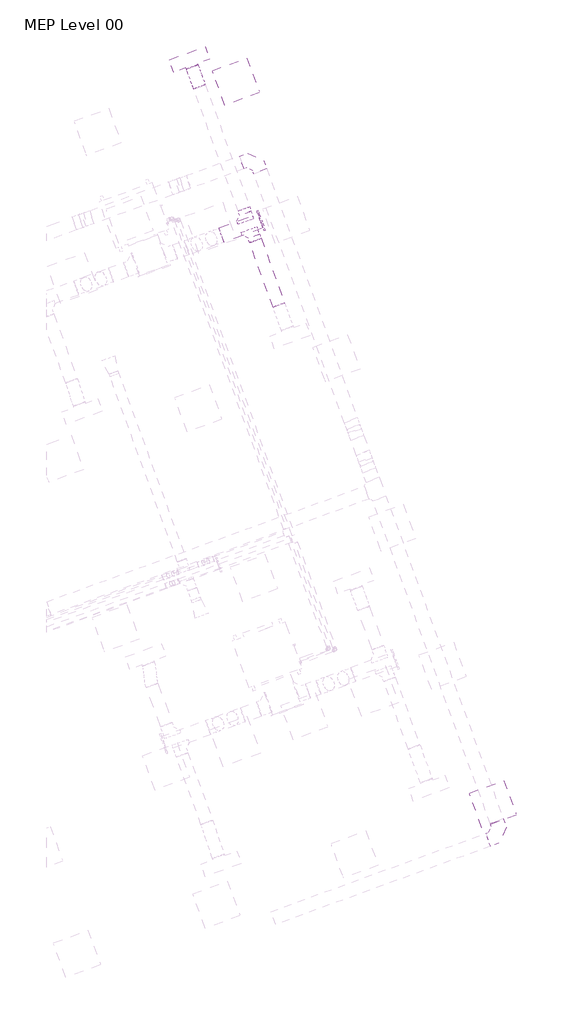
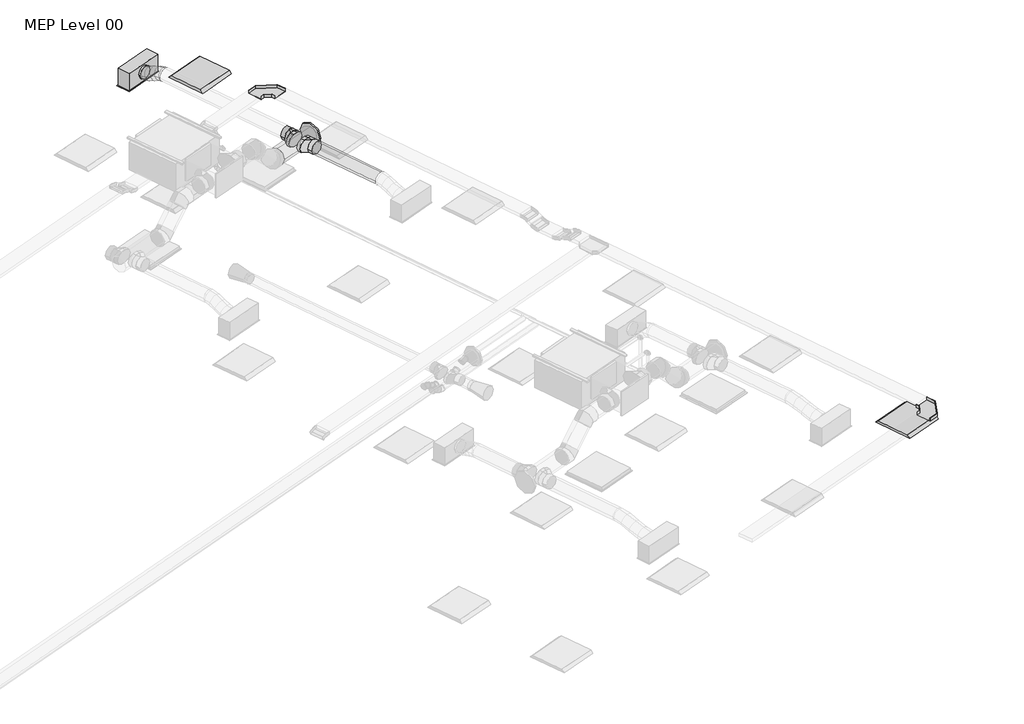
# One storey, part 33 of 33: 3 duct fittings, 3 duct segments, 2 cable carrier fittings, 2 light fixtures, 1 air terminal.
"""IFC4 building model written with IfcOpenShell, lengths in millimetres."""

from ifc_helpers import new_model, si_unit, point, frame, frame_2d, origin, place, context, project, spatial, circle_curve, ellipse_curve, trimmed, segment, composite_curve, outline, extrude, transform, mapped, element, save
from ifc_brep_helpers import plane_surface, cylinder_surface, advanced_brep
from components import supply_diffuser_with_plenum_linear_slot_hosted_8c379eed, cable_tray_horizontal_bend_standard_fd552271, dw144_round_blank_end_standard_e3d0b58b, dw144_round_shoe_branch_slip_joint_standard_15a2edd8, light_fixture_600x600_230_1c7c1157

model = new_model("IFC4")

# Units and contexts
model_context = context("Model", 3, world=origin())
ifc_project = project(units=[si_unit("LENGTHUNIT", "METRE", prefix="MILLI")], contexts=[model_context])

# Site, building, storey
site = spatial("IfcSite", under=ifc_project)
building = spatial("IfcBuilding", under=site)
storey = spatial("IfcBuildingStorey", under=building, Name="MEP Level 00", Elevation=0.0)

# Air terminal
placement = place(None, origin())
supply_diffuser_with_plenum_linear_slot_hosted_shape = supply_diffuser_with_plenum_linear_slot_hosted_8c379eed(model_context)
element("IfcAirTerminal", 1, ObjectType="Supply Diffuser with Plenum - Linear Slot - Hosted : 600mmx193.8mm-200 In Inlet  4-Slot", at=placement, inside=storey, context=model_context, shape_type="MappedRepresentation", body=[
    mapped(supply_diffuser_with_plenum_linear_slot_hosted_shape, transform((59322.1555846, 24845.631912, 2800.0), x_axis=(-0.9396926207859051, -0.3420201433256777, 0.0), y_axis=(-0.3420201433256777, 0.9396926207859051, 0.0), z_axis=(0.0, 0.0, -1.0))),
])

# Cable carrier fittings
cable_tray_horizontal_bend_standard_shape = cable_tray_horizontal_bend_standard_fd552271(model_context)
element("IfcCableCarrierFitting", 2, ObjectType="Cable Tray Horizontal Bend : Standard", at=placement, inside=storey, context=model_context, shape_type="MappedRepresentation", body=[
    mapped(cable_tray_horizontal_bend_standard_shape, transform((64419.4120815, 12194.2633634, 3248.9627355), x_axis=(0.9396926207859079, 0.34202014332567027, 0.0), y_axis=(-0.34202014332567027, 0.9396926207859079, 0.0), z_axis=(0.0, 0.0, 1.0))),
])
element("IfcCableCarrierFitting", 3, ObjectType="Cable Tray Horizontal Bend : Standard", at=placement, inside=storey, context=model_context, shape_type="MappedRepresentation", body=[
    mapped(cable_tray_horizontal_bend_standard_shape, transform((60397.5181523, 23244.3261172, 3248.9627355), x_axis=(-0.3420201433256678, 0.9396926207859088, 0.0), y_axis=(-0.9396926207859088, -0.3420201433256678, 0.0), z_axis=(0.0, 0.0, 1.0))),
])

# Duct fittings
dw144_round_blank_end_standard_shape = dw144_round_blank_end_standard_e3d0b58b(model_context)
element("IfcDuctFitting", 4, ObjectType="DW144 Round Blank End : Standard", at=placement, inside=storey, context=model_context, shape_type="MappedRepresentation", body=[
    mapped(dw144_round_blank_end_standard_shape, transform((60480.1698786, 22212.391139, 3072.2088531), x_axis=(0.9396926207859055, 0.3420201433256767, 0.0), y_axis=(-0.3420201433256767, 0.9396926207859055, 0.0), z_axis=(0.0, 0.0, 1.0))),
])
dw144_round_shoe_branch_slip_joint_standard_shape = dw144_round_shoe_branch_slip_joint_standard_15a2edd8(model_context)
element("IfcDuctFitting", 5, ObjectType="DW144 Round Shoe Branch - Slip Joint : Standard", at=placement, inside=storey, context=model_context, shape_type="MappedRepresentation", body=[
    mapped(dw144_round_shoe_branch_slip_joint_standard_shape, transform((60261.1722773, 22265.7047523, 3072.2088531), x_axis=(-0.3420201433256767, 0.9396926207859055, 0.0), y_axis=(0.9396926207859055, 0.3420201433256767, 0.0), z_axis=(0.0, 0.0, -1.0))),
])
element("IfcDuctFitting", 6, ObjectType="DW144 Round Shoe Branch - Slip Joint : Standard", at=placement, inside=storey, context=model_context, shape_type="MappedRepresentation", body=[
    mapped(dw144_round_shoe_branch_slip_joint_standard_shape, transform((60346.6773131, 22030.7815971, 3072.2088531), x_axis=(0.3420201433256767, -0.9396926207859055, 0.0), y_axis=(0.9396926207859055, 0.3420201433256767, 0.0), z_axis=(0.0, 0.0, 1.0))),
])

# Duct segments
element("IfcDuctSegment", 7, ObjectType="DW144 Segmented Bend / Shoe Branch", at=placement, inside=storey, context=model_context, shape_type="SweptSolid", body=[
    extrude(outline(composite_curve([segment(trimmed(circle_curve(frame_2d((0.0, -125.0)), 125.0), [point((-125.0, -125.0))], [point((0.0, 0.0))], False, "CARTESIAN"), True, "CONTINUOUS"), segment(trimmed(circle_curve(frame_2d((0.0, -125.0)), 125.0), [point((0.0, 0.0))], [point((125.0, -125.0))], False, "CARTESIAN"), True, "CONTINUOUS"), segment(trimmed(circle_curve(frame_2d((0.0, -125.0)), 125.0), [point((125.0, -125.0))], [point((0.0, -250.0))], False, "CARTESIAN"), True, "CONTINUOUS"), segment(trimmed(circle_curve(frame_2d((0.0, -125.0)), 125.0), [point((0.0, -250.0))], [point((-125.0, -125.0))], False, "CARTESIAN"), True, "CONTINUOUS")], self_intersect=False)), frame((59844.6866394, 21981.0941556, 2947.2088531), z_axis=(0.9396926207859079, 0.3420201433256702, 0.0), x_axis=(0.3420201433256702, -0.9396926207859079, 0.0)), (0.0, 0.0, 1.0), 676.267138),
])
element("IfcDuctSegment", 8, ObjectType="DW144 Segmented Bend / Shoe Branch", at=placement, inside=storey, context=model_context, shape_type="SweptSolid", body=[
    extrude(outline(composite_curve([segment(trimmed(circle_curve(frame_2d((0.0, -100.0)), 100.0), [point((-99.9999999, -100.0))], [point((0.0, 0.0))], False, "CARTESIAN"), True, "CONTINUOUS"), segment(trimmed(circle_curve(frame_2d((0.0, -100.0)), 100.0), [point((0.0, 0.0))], [point((100.0, -100.0))], False, "CARTESIAN"), True, "CONTINUOUS"), segment(trimmed(circle_curve(frame_2d((0.0, -100.0)), 100.0), [point((100.0, -100.0))], [point((0.0, -200.0))], False, "CARTESIAN"), True, "CONTINUOUS"), segment(trimmed(circle_curve(frame_2d((0.0, -100.0)), 100.0), [point((0.0, -200.0))], [point((-99.9999999, -100.0))], False, "CARTESIAN"), True, "CONTINUOUS")], self_intersect=False)), frame((60782.0007844, 20834.7401896, 2972.2088531), z_axis=(-0.3420201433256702, 0.9396926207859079, 0.0), x_axis=(0.9396926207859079, 0.3420201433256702, 0.0)), (0.0, 0.0, 1.0), 1122.8006809),
])
element("IfcDuctSegment", 9, ObjectType="Flex - Round", at=placement, inside=storey, context=model_context, shape_type="AdvancedBrep", body=[
    advanced_brep(
    [(59391.7751792, 24361.973208, 3072.2088531), (59485.7444412, 24396.1752224, 2972.2088531), (59579.7137033, 24430.3772367, 3072.2088531), (59485.7444412, 24396.1752224, 3172.2088531), (59384.8599769, 24380.9725701, 3072.2088531), (59483.3165362, 24402.8458367, 2972.2088531), (59572.7985011, 24449.3765987, 3072.2088531), (59474.3419418, 24427.5033322, 3172.2088531), (59272.272719, 24690.3035188, 2954.4), (59366.2419811, 24724.5055332, 3054.4), (59460.2112432, 24758.7075475, 2954.4), (59366.2419811, 24724.5055332, 2854.4), (59361.2798724, 24445.7583747, 3053.8012198), (59467.0749017, 24447.4693607, 2959.5299419), (59549.2183966, 24514.1624034, 3053.8012198), (59443.4233673, 24512.4514173, 3148.0724978), (59332.0239491, 24526.1383634, 3013.3044266), (59440.6282832, 24520.1308477, 2922.9218599), (59519.9624732, 24594.5423921, 3013.3044266), (59411.3581391, 24600.5499078, 3103.6869932), (59302.7680258, 24606.5183522, 2972.8076333), (59408.563055, 24608.2293382, 2878.5363553), (59490.7065499, 24674.9223809, 2972.8076333), (59384.9115206, 24673.2113948, 3067.0789113), (59279.1879213, 24671.3041568, 2954.4), (59377.6444806, 24693.1774234, 2854.4), (59467.1264454, 24739.7081855, 2954.4), (59368.6698861, 24717.8349189, 3054.4)],
    [
        (0, 1, circle_curve(frame((59485.7444412, 24396.1752224, 3072.2088531), z_axis=(0.34202014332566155, -0.9396926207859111, 0.0), x_axis=(-0.9396926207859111, -0.34202014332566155, 0.0)), 100.0)),
        (1, 2, circle_curve(frame((59485.7444412, 24396.1752224, 3072.2088531), z_axis=(0.34202014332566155, -0.9396926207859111, 0.0), x_axis=(-0.9396926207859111, -0.34202014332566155, 0.0)), 100.0)),
        (2, 3, circle_curve(frame((59485.7444412, 24396.1752224, 3072.2088531), z_axis=(0.34202014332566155, -0.9396926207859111, 0.0), x_axis=(-0.9396926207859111, -0.34202014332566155, 0.0)), 100.0)),
        (3, 0, circle_curve(frame((59485.7444412, 24396.1752224, 3072.2088531), z_axis=(0.34202014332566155, -0.9396926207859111, 0.0), x_axis=(-0.9396926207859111, -0.34202014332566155, 0.0)), 100.0)),
        (0, 4),
        (4, 5, ellipse_curve(frame((59478.829239, 24415.1745844, 3072.2088531), z_axis=(0.33911394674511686, -0.931707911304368, 0.13008496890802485), x_axis=(0.04449167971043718, -0.12223988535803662, -0.9915028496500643)), 100.8569971, 100.0)),
        (5, 1),
        (5, 6, ellipse_curve(frame((59478.829239, 24415.1745844, 3072.2088531), z_axis=(0.33911394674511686, -0.931707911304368, 0.13008496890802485), x_axis=(0.04449167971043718, -0.12223988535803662, -0.9915028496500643)), 100.8569971, 100.0)),
        (6, 2),
        (6, 7, ellipse_curve(frame((59478.829239, 24415.1745844, 3072.2088531), z_axis=(0.33911394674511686, -0.931707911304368, 0.13008496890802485), x_axis=(0.04449167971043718, -0.12223988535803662, -0.9915028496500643)), 100.8569971, 100.0)),
        (7, 3),
        (7, 4, ellipse_curve(frame((59478.829239, 24415.1745844, 3072.2088531), z_axis=(0.33911394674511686, -0.931707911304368, 0.13008496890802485), x_axis=(0.04449167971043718, -0.12223988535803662, -0.9915028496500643)), 100.8569971, 100.0)),
        (8, 9, circle_curve(frame((59366.2419811, 24724.5055332, 2954.4), z_axis=(-0.342020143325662, 0.9396926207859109, 0.0), x_axis=(-0.9396926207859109, -0.342020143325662, 0.0)), 100.0)),
        (9, 10, circle_curve(frame((59366.2419811, 24724.5055332, 2954.4), z_axis=(-0.342020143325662, 0.9396926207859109, 0.0), x_axis=(-0.9396926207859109, -0.342020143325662, 0.0)), 100.0)),
        (10, 11, circle_curve(frame((59366.2419811, 24724.5055332, 2954.4), z_axis=(-0.342020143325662, 0.9396926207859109, 0.0), x_axis=(-0.9396926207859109, -0.342020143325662, 0.0)), 100.0)),
        (11, 8, circle_curve(frame((59366.2419811, 24724.5055332, 2954.4), z_axis=(-0.342020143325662, 0.9396926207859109, 0.0), x_axis=(-0.9396926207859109, -0.342020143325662, 0.0)), 100.0)),
        (4, 12),
        (12, 13, ellipse_curve(frame((59455.2491345, 24479.960389, 3053.8012198), z_axis=(0.32110349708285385, -0.8822246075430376, 0.3443432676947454), x_axis=(0.11777233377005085, -0.3235768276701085, -0.9388438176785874)), 100.4120986, 100.0)),
        (13, 5),
        (13, 14, ellipse_curve(frame((59455.2491345, 24479.960389, 3053.8012198), z_axis=(0.32110349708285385, -0.8822246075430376, 0.3443432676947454), x_axis=(0.11777233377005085, -0.3235768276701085, -0.9388438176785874)), 100.4120986, 100.0)),
        (14, 6),
        (14, 15, ellipse_curve(frame((59455.2491345, 24479.960389, 3053.8012198), z_axis=(0.32110349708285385, -0.8822246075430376, 0.3443432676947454), x_axis=(0.11777233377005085, -0.3235768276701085, -0.9388438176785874)), 100.4120986, 100.0)),
        (15, 7),
        (15, 12, ellipse_curve(frame((59455.2491345, 24479.960389, 3053.8012198), z_axis=(0.32110349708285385, -0.8822246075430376, 0.3443432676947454), x_axis=(0.11777233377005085, -0.3235768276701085, -0.9388438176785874)), 100.4120986, 100.0)),
        (12, 16),
        (16, 17, circle_curve(frame((59425.9932112, 24560.3403778, 3013.3044266), z_axis=(0.3091265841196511, -0.8493183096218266, 0.4279008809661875), x_axis=(-0.9396926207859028, -0.3420201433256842, 0.0)), 100.0)),
        (17, 13),
        (17, 18, circle_curve(frame((59425.9932112, 24560.3403778, 3013.3044266), z_axis=(0.3091265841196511, -0.8493183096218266, 0.4279008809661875), x_axis=(-0.9396926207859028, -0.3420201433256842, 0.0)), 100.0)),
        (18, 14),
        (18, 19, circle_curve(frame((59425.9932112, 24560.3403778, 3013.3044266), z_axis=(0.3091265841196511, -0.8493183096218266, 0.4279008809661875), x_axis=(-0.9396926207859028, -0.3420201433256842, 0.0)), 100.0)),
        (19, 15),
        (19, 16, circle_curve(frame((59425.9932112, 24560.3403778, 3013.3044266), z_axis=(0.3091265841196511, -0.8493183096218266, 0.4279008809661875), x_axis=(-0.9396926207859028, -0.3420201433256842, 0.0)), 100.0)),
        (16, 20),
        (20, 21, ellipse_curve(frame((59396.7372878, 24640.7203665, 2972.8076333), z_axis=(0.32110349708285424, -0.8822246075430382, 0.34434326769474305), x_axis=(-0.11777233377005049, 0.3235768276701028, 0.9388438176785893)), 100.4120986, 100.0)),
        (21, 17),
        (21, 22, ellipse_curve(frame((59396.7372878, 24640.7203665, 2972.8076333), z_axis=(0.32110349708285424, -0.8822246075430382, 0.34434326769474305), x_axis=(-0.11777233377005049, 0.3235768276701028, 0.9388438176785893)), 100.4120986, 100.0)),
        (22, 18),
        (22, 23, ellipse_curve(frame((59396.7372878, 24640.7203665, 2972.8076333), z_axis=(0.32110349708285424, -0.8822246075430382, 0.34434326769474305), x_axis=(-0.11777233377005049, 0.3235768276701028, 0.9388438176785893)), 100.4120986, 100.0)),
        (23, 19),
        (23, 20, ellipse_curve(frame((59396.7372878, 24640.7203665, 2972.8076333), z_axis=(0.32110349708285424, -0.8822246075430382, 0.34434326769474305), x_axis=(-0.11777233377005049, 0.3235768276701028, 0.9388438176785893)), 100.4120986, 100.0)),
        (20, 24),
        (24, 25, ellipse_curve(frame((59373.1571834, 24705.5061711, 2954.4), z_axis=(0.3391139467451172, -0.9317079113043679, 0.13008496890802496), x_axis=(-0.044491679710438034, 0.12223988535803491, 0.9915028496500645)), 100.8569971, 100.0)),
        (25, 21),
        (25, 26, ellipse_curve(frame((59373.1571834, 24705.5061711, 2954.4), z_axis=(0.3391139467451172, -0.9317079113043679, 0.13008496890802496), x_axis=(-0.044491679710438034, 0.12223988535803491, 0.9915028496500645)), 100.8569971, 100.0)),
        (26, 22),
        (26, 27, ellipse_curve(frame((59373.1571834, 24705.5061711, 2954.4), z_axis=(0.3391139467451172, -0.9317079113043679, 0.13008496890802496), x_axis=(-0.044491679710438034, 0.12223988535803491, 0.9915028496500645)), 100.8569971, 100.0)),
        (27, 23),
        (27, 24, ellipse_curve(frame((59373.1571834, 24705.5061711, 2954.4), z_axis=(0.3391139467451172, -0.9317079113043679, 0.13008496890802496), x_axis=(-0.044491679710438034, 0.12223988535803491, 0.9915028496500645)), 100.8569971, 100.0)),
        (24, 8),
        (11, 25),
        (10, 26),
        (9, 27),
    ],
    [
        plane_surface(frame((59485.7444412, 24396.1752224, 3172.2088531), z_axis=(0.3420201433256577, -0.9396926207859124, 0.0), x_axis=(0.9396926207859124, 0.3420201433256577, 0.0))),
        cylinder_surface(frame((59485.7444412, 24396.1752224, 3072.2088531), z_axis=(0.34202014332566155, -0.9396926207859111, 0.0), x_axis=(-0.9396926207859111, -0.34202014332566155, 0.0)), 100.0),
        plane_surface(frame((59366.2419811, 24724.5055332, 3054.4), z_axis=(-0.3420201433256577, 0.9396926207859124, 0.0), x_axis=(0.9396926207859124, 0.3420201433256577, 0.0))),
        cylinder_surface(frame((59478.829239, 24415.1745844, 3072.2088531), z_axis=(0.3304447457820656, -0.90788947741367, 0.25795923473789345), x_axis=(-0.939692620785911, -0.34202014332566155, 0.0)), 100.0),
        cylinder_surface(frame((59455.2491345, 24479.960389, 3053.8012198), z_axis=(0.3091265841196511, -0.8493183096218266, 0.4279008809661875), x_axis=(-0.9396926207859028, -0.3420201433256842, 0.0)), 100.0),
        cylinder_surface(frame((59425.9932112, 24560.3403778, 3013.3044266), z_axis=(0.3091265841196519, -0.8493183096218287, 0.42790088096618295), x_axis=(-0.9396926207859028, -0.34202014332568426, 0.0)), 100.0),
        cylinder_surface(frame((59396.7372878, 24640.7203665, 2972.8076333), z_axis=(0.3304447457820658, -0.9078894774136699, 0.2579592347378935), x_axis=(-0.939692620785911, -0.3420201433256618, 0.0)), 100.0),
        cylinder_surface(frame((59373.1571834, 24705.5061711, 2954.4), z_axis=(0.342020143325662, -0.9396926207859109, 0.0), x_axis=(-0.9396926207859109, -0.342020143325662, 0.0)), 100.0),
    ],
    [
        (0, [[1, 2, 3, 4]]),
        (1, [[-1, 5, 6, 7]]),
        (1, [[-2, -7, 8, 9]]),
        (1, [[-3, -9, 10, 11]]),
        (1, [[-4, -11, 12, -5]]),
        (2, [[13, 14, 15, 16]]),
        (3, [[-6, 17, 18, 19]]),
        (3, [[-8, -19, 20, 21]]),
        (3, [[-10, -21, 22, 23]]),
        (3, [[-12, -23, 24, -17]]),
        (4, [[-18, 25, 26, 27]]),
        (4, [[-20, -27, 28, 29]]),
        (4, [[-22, -29, 30, 31]]),
        (4, [[-24, -31, 32, -25]]),
        (5, [[-26, 33, 34, 35]]),
        (5, [[-28, -35, 36, 37]]),
        (5, [[-30, -37, 38, 39]]),
        (5, [[-32, -39, 40, -33]]),
        (6, [[-34, 41, 42, 43]]),
        (6, [[-36, -43, 44, 45]]),
        (6, [[-38, -45, 46, 47]]),
        (6, [[-40, -47, 48, -41]]),
        (7, [[-42, 49, -16, 50]]),
        (7, [[-44, -50, -15, 51]]),
        (7, [[-46, -51, -14, 52]]),
        (7, [[-48, -52, -13, -49]]),
    ],
),
])

# Light fixtures
light_fixture_600x600_230_shape = light_fixture_600x600_230_1c7c1157(model_context)
element("IfcLightFixture", 10, ObjectType="ELEKTRA Recessed Lighting Fixture : 600x600 - 230", at=placement, inside=storey, context=model_context, shape_type="MappedRepresentation", body=[
    mapped(light_fixture_600x600_230_shape, transform((64093.1824859, 12310.7748374, 2800.0), x_axis=(0.9396926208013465, 0.3420201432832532, 0.0), y_axis=(0.3420201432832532, -0.9396926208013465, 0.0), z_axis=(0.0, 0.0, -1.0))),
])
element("IfcLightFixture", 11, ObjectType="ELEKTRA Recessed Lighting Fixture : 600x600 - 230", at=placement, inside=storey, context=model_context, shape_type="MappedRepresentation", body=[
    mapped(light_fixture_600x600_230_shape, transform((59900.8870967, 24098.5129607, 2800.0), x_axis=(0.9396926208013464, 0.34202014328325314, 0.0), y_axis=(0.34202014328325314, -0.9396926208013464, 0.0), z_axis=(0.0, 0.0, -1.0))),
])

save(model, "model.ifc")
